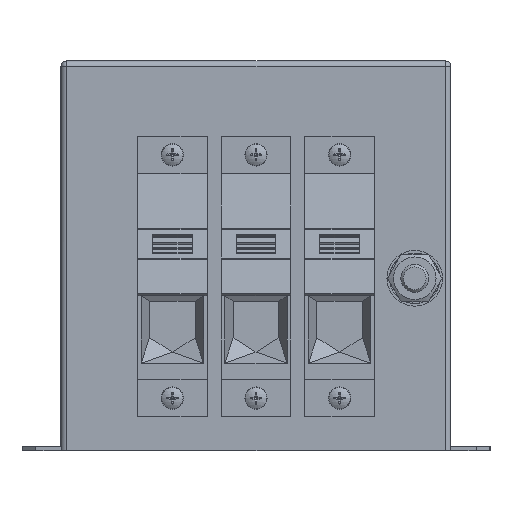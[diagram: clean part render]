
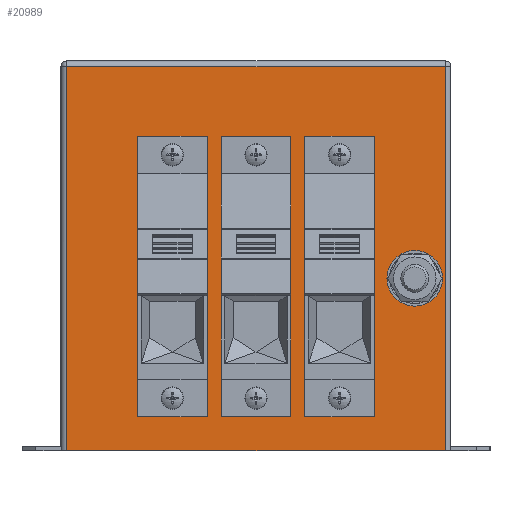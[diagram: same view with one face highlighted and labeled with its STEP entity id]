
A CAD part, left-side view. The second image highlights one B-rep face of the part: STEP entity #20989.
In plain terms, the highlighted planar face has unit normal (-1, 0, 0).
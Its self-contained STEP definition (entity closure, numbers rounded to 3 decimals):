
#11296=CARTESIAN_POINT('',(-150.,-12.5,113.));
#11297=VERTEX_POINT('',#11296);
#11304=CARTESIAN_POINT('',(-150.,12.5,113.));
#11305=VERTEX_POINT('',#11304);
#11306=CARTESIAN_POINT('',(-150.,12.5,113.));
#11307=DIRECTION('',(0.0,-1.0,0.0));
#11308=VECTOR('',#11307,25.0);
#11309=LINE('',#11306,#11308);
#11310=EDGE_CURVE('',#11305,#11297,#11309,.T.);
#11370=CARTESIAN_POINT('',(-150.,12.5,12.3));
#11371=VERTEX_POINT('',#11370);
#11378=CARTESIAN_POINT('',(-150.0,-12.5,12.3));
#11379=VERTEX_POINT('',#11378);
#11380=CARTESIAN_POINT('',(-150.,-12.5,12.3));
#11381=DIRECTION('',(0.0,1.0,0.0));
#11382=VECTOR('',#11381,25.0);
#11383=LINE('',#11380,#11382);
#11384=EDGE_CURVE('',#11379,#11371,#11383,.T.);
#11408=CARTESIAN_POINT('',(-150.0,-12.5,113.));
#11409=DIRECTION('',(0.0,0.0,-1.0));
#11410=VECTOR('',#11409,100.7);
#11411=LINE('',#11408,#11410);
#11412=EDGE_CURVE('',#11297,#11379,#11411,.T.);
#12381=CARTESIAN_POINT('',(-150.,12.5,12.3));
#12382=DIRECTION('',(0.0,0.0,1.0));
#12383=VECTOR('',#12382,100.7);
#12384=LINE('',#12381,#12383);
#12385=EDGE_CURVE('',#11371,#11305,#12384,.T.);
#13160=CARTESIAN_POINT('',(-150.0,-57.,53.75));
#13161=VERTEX_POINT('',#13160);
#13162=CARTESIAN_POINT('',(-150.,-57.,62.0));
#13163=DIRECTION('',(1.0,0.0,0.0));
#13164=DIRECTION('',(0.0,0.0,-1.0));
#13165=AXIS2_PLACEMENT_3D('',#13162,#13163,#13164);
#13166=CIRCLE('',#13165,8.25);
#13167=EDGE_CURVE('',#13161,#13161,#13166,.T.);
#16912=CARTESIAN_POINT('',(-150.0,-68.0,138.0));
#16913=VERTEX_POINT('',#16912);
#16965=CARTESIAN_POINT('',(-150.0,-68.0,0.0));
#16966=VERTEX_POINT('',#16965);
#16967=CARTESIAN_POINT('',(-150.0,-68.0,138.0));
#16968=DIRECTION('',(0.0,0.0,-1.0));
#16969=VECTOR('',#16968,138.0);
#16970=LINE('',#16967,#16969);
#16971=EDGE_CURVE('',#16913,#16966,#16970,.T.);
#17091=CARTESIAN_POINT('',(-150.,68.0,138.0));
#17092=VERTEX_POINT('',#17091);
#17117=CARTESIAN_POINT('',(-150.,68.0,0.0));
#17118=VERTEX_POINT('',#17117);
#17126=CARTESIAN_POINT('',(-150.,68.0,0.0));
#17127=DIRECTION('',(0.0,0.0,1.0));
#17128=VECTOR('',#17127,138.0);
#17129=LINE('',#17126,#17128);
#17130=EDGE_CURVE('',#17118,#17092,#17129,.T.);
#17172=CARTESIAN_POINT('',(-150.,68.0,138.0));
#17173=DIRECTION('',(0.0,-1.0,0.0));
#17174=VECTOR('',#17173,136.0);
#17175=LINE('',#17172,#17174);
#17176=EDGE_CURVE('',#17092,#16913,#17175,.T.);
#17362=CARTESIAN_POINT('',(-150.0,-68.0,0.0));
#17363=DIRECTION('',(0.0,1.0,0.0));
#17364=VECTOR('',#17363,136.0);
#17365=LINE('',#17362,#17364);
#17366=EDGE_CURVE('',#16966,#17118,#17365,.T.);
#19746=CARTESIAN_POINT('',(-150.,-17.5,113.));
#19747=VERTEX_POINT('',#19746);
#19754=CARTESIAN_POINT('',(-150.,-17.5,12.3));
#19755=VERTEX_POINT('',#19754);
#19756=CARTESIAN_POINT('',(-150.0,-17.5,12.3));
#19757=DIRECTION('',(0.0,0.0,1.0));
#19758=VECTOR('',#19757,100.7);
#19759=LINE('',#19756,#19758);
#19760=EDGE_CURVE('',#19755,#19747,#19759,.T.);
#20278=CARTESIAN_POINT('',(-150.0,-42.5,12.3));
#20279=VERTEX_POINT('',#20278);
#20286=CARTESIAN_POINT('',(-150.,-42.5,113.));
#20287=VERTEX_POINT('',#20286);
#20288=CARTESIAN_POINT('',(-150.0,-42.5,113.));
#20289=DIRECTION('',(0.0,0.0,-1.0));
#20290=VECTOR('',#20289,100.7);
#20291=LINE('',#20288,#20290);
#20292=EDGE_CURVE('',#20287,#20279,#20291,.T.);
#20347=CARTESIAN_POINT('',(-150.,-42.5,12.3));
#20348=DIRECTION('',(0.0,1.0,0.0));
#20349=VECTOR('',#20348,25.0);
#20350=LINE('',#20347,#20349);
#20351=EDGE_CURVE('',#20279,#19755,#20350,.T.);
#20384=CARTESIAN_POINT('',(-150.,-17.5,113.));
#20385=DIRECTION('',(0.0,-1.0,0.0));
#20386=VECTOR('',#20385,25.);
#20387=LINE('',#20384,#20386);
#20388=EDGE_CURVE('',#19747,#20287,#20387,.T.);
#20929=CARTESIAN_POINT('',(-150.,70.0,0.0));
#20930=DIRECTION('',(-1.0,0.0,0.0));
#20931=DIRECTION('',(0.0,-1.0,0.0));
#20932=AXIS2_PLACEMENT_3D('',#20929,#20930,#20931);
#20933=PLANE('',#20932);
#20934=ORIENTED_EDGE('',*,*,#16971,.F.);
#20935=ORIENTED_EDGE('',*,*,#17176,.F.);
#20936=ORIENTED_EDGE('',*,*,#17130,.F.);
#20937=ORIENTED_EDGE('',*,*,#17366,.F.);
#20938=EDGE_LOOP('',(#20934,#20935,#20936,#20937));
#20939=FACE_OUTER_BOUND('',#20938,.T.);
#20940=CARTESIAN_POINT('',(-150.,17.5,12.3));
#20941=VERTEX_POINT('',#20940);
#20942=CARTESIAN_POINT('',(-150.,42.5,12.3));
#20943=VERTEX_POINT('',#20942);
#20944=CARTESIAN_POINT('',(-150.,17.5,12.3));
#20945=DIRECTION('',(0.0,1.0,0.0));
#20946=VECTOR('',#20945,25.);
#20947=LINE('',#20944,#20946);
#20948=EDGE_CURVE('',#20941,#20943,#20947,.T.);
#20949=ORIENTED_EDGE('',*,*,#20948,.T.);
#20950=CARTESIAN_POINT('',(-150.,42.5,113.));
#20951=VERTEX_POINT('',#20950);
#20952=CARTESIAN_POINT('',(-150.,42.5,12.3));
#20953=DIRECTION('',(0.0,0.0,1.0));
#20954=VECTOR('',#20953,100.7);
#20955=LINE('',#20952,#20954);
#20956=EDGE_CURVE('',#20943,#20951,#20955,.T.);
#20957=ORIENTED_EDGE('',*,*,#20956,.T.);
#20958=CARTESIAN_POINT('',(-150.,17.5,113.));
#20959=VERTEX_POINT('',#20958);
#20960=CARTESIAN_POINT('',(-150.,42.5,113.));
#20961=DIRECTION('',(0.0,-1.0,0.0));
#20962=VECTOR('',#20961,25.0);
#20963=LINE('',#20960,#20962);
#20964=EDGE_CURVE('',#20951,#20959,#20963,.T.);
#20965=ORIENTED_EDGE('',*,*,#20964,.T.);
#20966=CARTESIAN_POINT('',(-150.,17.5,113.));
#20967=DIRECTION('',(0.0,0.0,-1.0));
#20968=VECTOR('',#20967,100.7);
#20969=LINE('',#20966,#20968);
#20970=EDGE_CURVE('',#20959,#20941,#20969,.T.);
#20971=ORIENTED_EDGE('',*,*,#20970,.T.);
#20972=EDGE_LOOP('',(#20949,#20957,#20965,#20971));
#20973=FACE_BOUND('',#20972,.T.);
#20974=ORIENTED_EDGE('',*,*,#11384,.T.);
#20975=ORIENTED_EDGE('',*,*,#12385,.T.);
#20976=ORIENTED_EDGE('',*,*,#11310,.T.);
#20977=ORIENTED_EDGE('',*,*,#11412,.T.);
#20978=EDGE_LOOP('',(#20974,#20975,#20976,#20977));
#20979=FACE_BOUND('',#20978,.T.);
#20980=ORIENTED_EDGE('',*,*,#13167,.T.);
#20981=EDGE_LOOP('',(#20980));
#20982=FACE_BOUND('',#20981,.T.);
#20983=ORIENTED_EDGE('',*,*,#20351,.T.);
#20984=ORIENTED_EDGE('',*,*,#19760,.T.);
#20985=ORIENTED_EDGE('',*,*,#20388,.T.);
#20986=ORIENTED_EDGE('',*,*,#20292,.T.);
#20987=EDGE_LOOP('',(#20983,#20984,#20985,#20986));
#20988=FACE_BOUND('',#20987,.T.);
#20989=ADVANCED_FACE('',(#20939,#20973,#20979,#20982,#20988),#20933,.T.);
